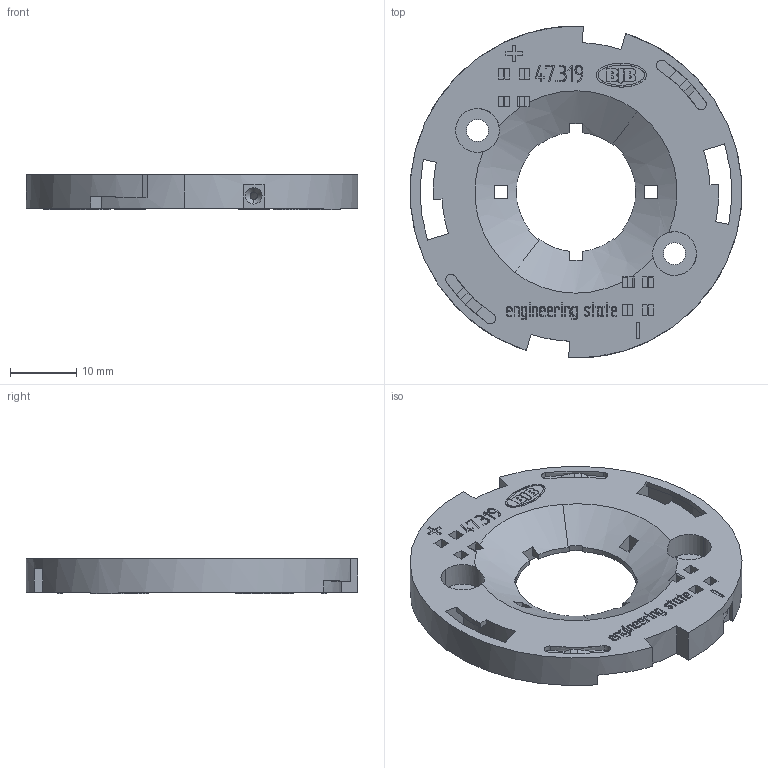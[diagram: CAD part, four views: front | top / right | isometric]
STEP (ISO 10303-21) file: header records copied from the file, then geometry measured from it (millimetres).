
FILE_DESCRIPTION((' '),'1');
FILE_NAME('01TYA3VY03.stp','2014-02-26 T13:40:10',(''),(''),'STEP Interface 2013.192 by CT CoreTechnologie','3D_Evolution2013.192 by CT CoreTechnologie','');
FILE_SCHEMA(('AP203_CONFIGURATION_CONTROLLED_3D_DESIGN_OF_MECHANICAL_PARTS_AND_ASSEMBLIES_MIM_LF'));
Length unit declared in the file: millimetre
Products named in the file (1): 01TYA3VY03
Bounding box: 49.92 x 49.95 x 5.35 mm (x, y, z)
Volume: 3631.1 mm3; surface area: 7218.8 mm2
Topology: 3 solids, 3 shells, 719 faces, 1959 edges, 1302 vertices
Faces by surface type: plane 515, cylinder 120, bspline 84
Entity records: 30508 total; most frequent: CARTESIAN_POINT 6633, ORIENTED_EDGE 3918, DIRECTION 3458, EDGE_CURVE 1959, VECTOR 1492, LINE 1492, VERTEX_POINT 1302, AXIS2_PLACEMENT_3D 983
